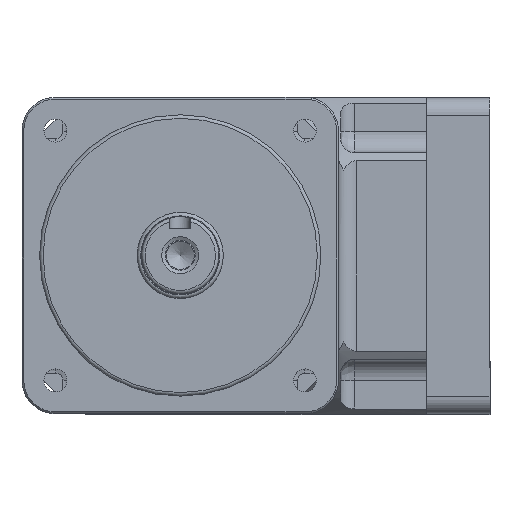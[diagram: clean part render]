
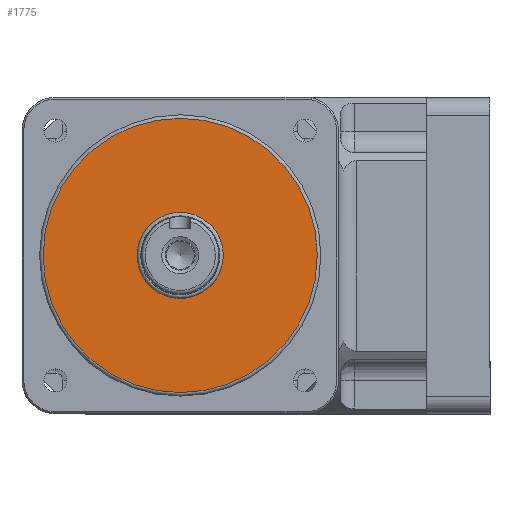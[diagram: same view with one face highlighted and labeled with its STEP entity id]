
A CAD part, top view. The second image highlights one B-rep face of the part: STEP entity #1775.
In plain terms, the highlighted planar face has unit normal (0, 0, 1).
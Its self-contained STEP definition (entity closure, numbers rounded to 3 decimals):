
#1237=CARTESIAN_POINT('',(-12.25,0.,-1.5));
#1238=VERTEX_POINT('',#1237);
#1239=CARTESIAN_POINT('',(0.0,0.0,-1.5));
#1240=DIRECTION('',(0.0,0.0,1.0));
#1241=DIRECTION('',(1.0,0.0,0.0));
#1242=AXIS2_PLACEMENT_3D('',#1239,#1240,#1241);
#1243=CIRCLE('',#1242,12.25);
#1244=EDGE_CURVE('',#1238,#1238,#1243,.T.);
#1752=CARTESIAN_POINT('',(-39.0,0.,-1.5));
#1753=VERTEX_POINT('',#1752);
#1754=CARTESIAN_POINT('',(0.0,0.0,-1.5));
#1755=DIRECTION('',(0.0,0.0,-1.0));
#1756=DIRECTION('',(1.0,0.0,0.0));
#1757=AXIS2_PLACEMENT_3D('',#1754,#1755,#1756);
#1758=CIRCLE('',#1757,39.0);
#1759=EDGE_CURVE('',#1753,#1753,#1758,.T.);
#1764=CARTESIAN_POINT('',(0.0,0.0,-1.5));
#1765=DIRECTION('',(0.0,0.0,1.0));
#1766=DIRECTION('',(1.0,0.0,0.0));
#1767=AXIS2_PLACEMENT_3D('',#1764,#1765,#1766);
#1768=PLANE('',#1767);
#1769=ORIENTED_EDGE('',*,*,#1759,.F.);
#1770=EDGE_LOOP('',(#1769));
#1771=FACE_OUTER_BOUND('',#1770,.T.);
#1772=ORIENTED_EDGE('',*,*,#1244,.F.);
#1773=EDGE_LOOP('',(#1772));
#1774=FACE_BOUND('',#1773,.T.);
#1775=ADVANCED_FACE('',(#1771,#1774),#1768,.T.);
